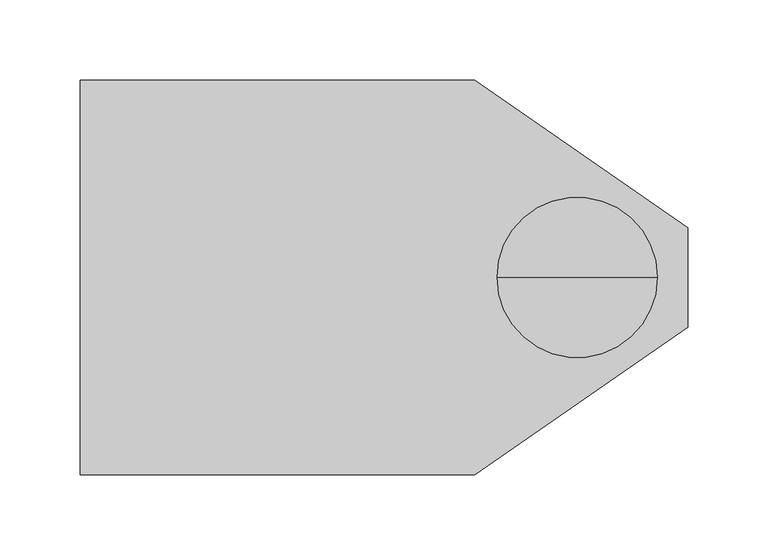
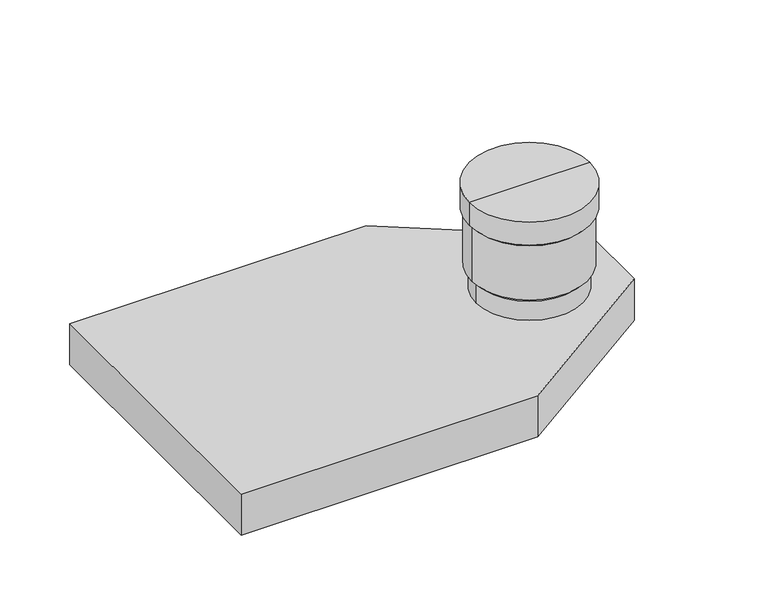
"""IFC4 building model written with IfcOpenShell, lengths in millimetres: sanitary terminal geometry, PF_WPB_Downpipe pickup_ACO : Downpipe pickup."""

from ifc_helpers import new_model, si_unit, frame, origin, place, context, project, spatial, polyline, circle_curve, outline, extrude, source, transform, mapped, element, save
from ifc_brep_helpers import plane_surface, cylinder_surface, revolved_surface, advanced_brep


def sanitary_terminal_bd2c42da(model_context):
    return source(origin(), model_context, "Body", "SolidModel", [
        advanced_brep(
        [(360.0, 0.0, 90.0), (260.0, 0.0, 90.0), (310.0, 0.0, 90.0), (360.0, 0.0, 70.0), (260.0, 0.0, 70.0), (357.8120428, 0.0, 67.8120428), (262.1879572, 0.0, 67.8120428), (357.8120428, 0.0, 20.3058695), (262.1879572, 0.0, 20.3058695), (354.2765089, 0.0, 16.7703356), (265.7234911, 0.0, 16.7703356), (354.2765089, 0.0, 0.0), (265.7234911, 0.0, 0.0), (310.0, 0.0, 0.0)],
        [
            (0, 1, circle_curve(frame((310.0, 0.0, 90.0), z_axis=(0.0, 0.0, 1.0), x_axis=(-1.0, 0.0, 0.0)), 50.0)),
            (1, 2),
            (2, 0),
            (1, 0, circle_curve(frame((310.0, 0.0, 90.0), z_axis=(0.0, 0.0, 1.0), x_axis=(-1.0, 0.0, 0.0)), 50.0)),
            (3, 4, circle_curve(frame((310.0, 0.0, 70.0), z_axis=(0.0, 0.0, 1.0), x_axis=(-1.0, 0.0, 0.0)), 50.0)),
            (4, 1),
            (0, 3),
            (4, 3, circle_curve(frame((310.0, 0.0, 70.0), z_axis=(0.0, 0.0, 1.0), x_axis=(-1.0, 0.0, 0.0)), 50.0)),
            (5, 6, circle_curve(frame((310.0, 0.0, 67.8120428), z_axis=(0.0, 0.0, 1.0), x_axis=(-1.0, 0.0, 0.0)), 47.8120428)),
            (6, 4),
            (3, 5),
            (6, 5, circle_curve(frame((310.0, 0.0, 67.8120428), z_axis=(0.0, 0.0, 1.0), x_axis=(-1.0, 0.0, 0.0)), 47.8120428)),
            (7, 8, circle_curve(frame((310.0, 0.0, 20.3058695), z_axis=(0.0, 0.0, 1.0), x_axis=(-1.0, 0.0, 0.0)), 47.8120428)),
            (8, 6),
            (5, 7),
            (8, 7, circle_curve(frame((310.0, 0.0, 20.3058695), z_axis=(0.0, 0.0, 1.0), x_axis=(-1.0, 0.0, 0.0)), 47.8120428)),
            (9, 10, circle_curve(frame((310.0, 0.0, 16.7703356), z_axis=(0.0, 0.0, 1.0), x_axis=(-1.0, 0.0, 0.0)), 44.2765089)),
            (10, 8),
            (7, 9),
            (10, 9, circle_curve(frame((310.0, 0.0, 16.7703356), z_axis=(0.0, 0.0, 1.0), x_axis=(-1.0, 0.0, 0.0)), 44.2765089)),
            (11, 12, circle_curve(frame((310.0, 0.0, 0.0), z_axis=(0.0, 0.0, 1.0), x_axis=(-1.0, 0.0, 0.0)), 44.2765089)),
            (12, 10),
            (9, 11),
            (12, 11, circle_curve(frame((310.0, 0.0, 0.0), z_axis=(0.0, 0.0, 1.0), x_axis=(-1.0, 0.0, 0.0)), 44.2765089)),
            (13, 12),
            (11, 13),
        ],
        [
            plane_surface(frame((310.0, 0.0, 90.0), z_axis=(0.0, 0.0, 1.0), x_axis=(-1.0, 0.0, 0.0))),
            cylinder_surface(frame((310.0, 0.0, 179.3878679), z_axis=(0.0, 0.0, -1.0), x_axis=(-1.0, 0.0, 0.0)), 50.0),
            revolved_surface(polyline([(260.0, 0.0, 70.0), (262.1879572, 0.0, 67.8120428)]), (310.0, 0.0, 179.3878679), (0.0, 0.0, -1.0)),
            cylinder_surface(frame((310.0, 0.0, 179.3878679), z_axis=(0.0, 0.0, -1.0), x_axis=(-1.0, 0.0, 0.0)), 47.8120428),
            revolved_surface(polyline([(262.1879572, 0.0, 20.3058695), (265.7234911, 0.0, 16.7703356)]), (310.0, 0.0, 179.3878679), (0.0, 0.0, -1.0)),
            cylinder_surface(frame((310.0, 0.0, 179.3878679), z_axis=(0.0, 0.0, -1.0), x_axis=(-1.0, 0.0, 0.0)), 44.2765089),
            plane_surface(frame((310.0, 0.0, 0.0), z_axis=(0.0, 0.0, -1.0), x_axis=(-1.0, 0.0, 0.0))),
        ],
        [
            (0, [[1, 2, 3]]),
            (0, [[4, -3, -2]]),
            (1, [[5, 6, -1, 7]]),
            (1, [[8, -7, -4, -6]]),
            (2, [[9, 10, -5, 11]]),
            (2, [[12, -11, -8, -10]]),
            (3, [[13, 14, -9, 15]]),
            (3, [[16, -15, -12, -14]]),
            (4, [[17, 18, -13, 19]]),
            (4, [[20, -19, -16, -18]]),
            (5, [[21, 22, -17, 23]]),
            (5, [[24, -23, -20, -22]]),
            (6, [[25, -21, 26]]),
            (6, [[-26, -24, -25]]),
        ],
    ),
        extrude(outline(polyline([(379.0, -31.0), (246.0, -123.0), (0.0, -123.0), (0.0, 123.0), (246.0, 123.0), (379.0, 31.0), (379.0, -31.0)])), frame((0.0, 0.0, -36.0), z_axis=(0.0, 0.0, 1.0), x_axis=(1.0, 0.0, 0.0)), (0.0, 0.0, 1.0), 36.0),
    ])


if __name__ == "__main__":
    model = new_model("IFC4")
    model_context = context("Model", 3, world=origin())
    ifc_project = project(units=[si_unit("LENGTHUNIT", "METRE", prefix="MILLI")], contexts=[model_context])
    site = spatial("IfcSite", under=ifc_project)
    building = spatial("IfcBuilding", under=site)
    placement = place(None, origin())
    sanitary_terminal_shape = sanitary_terminal_bd2c42da(model_context)
    element("IfcSanitaryTerminal", 1, ObjectType="PF_WPB_Downpipe pickup_ACO : Downpipe pickup", at=placement, inside=building, context=model_context, shape_type="MappedRepresentation", body=[
        mapped(sanitary_terminal_shape, transform((0.0, 0.0, 0.0), x_axis=(1.0, 0.0, 0.0), y_axis=(0.0, 1.0, 0.0), z_axis=(0.0, 0.0, 1.0))),
    ])
    save(model, "model.ifc")
